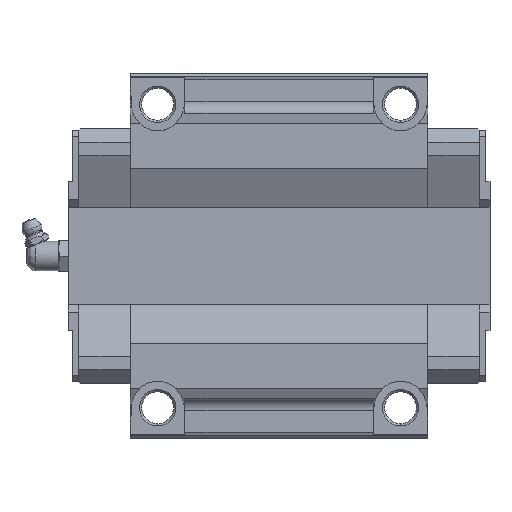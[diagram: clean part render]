
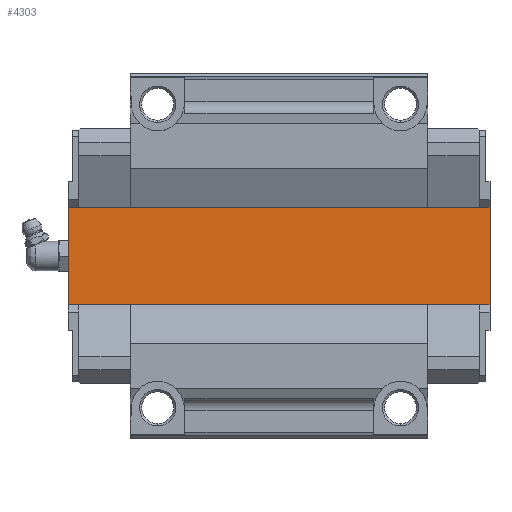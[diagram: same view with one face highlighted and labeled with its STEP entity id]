
A CAD part, front view. The second image highlights one B-rep face of the part: STEP entity #4303.
In plain terms, the highlighted planar face has unit normal (0, -1, 0).
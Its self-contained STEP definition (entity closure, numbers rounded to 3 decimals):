
#100 = DIRECTION ( 'NONE',  ( 0., 0., -1. ) ) ;
#496 = VECTOR ( 'NONE', #557, 1000. ) ;
#537 = EDGE_CURVE ( 'NONE', #1434, #1753, #5873, .T. ) ;
#557 = DIRECTION ( 'NONE',  ( -1., 0., 0. ) ) ;
#660 = EDGE_CURVE ( 'NONE', #3965, #1434, #2174, .T. ) ;
#831 = VECTOR ( 'NONE', #6884, 1000. ) ;
#1090 = VECTOR ( 'NONE', #4840, 1000. ) ;
#1434 = VERTEX_POINT ( 'NONE', #7837 ) ;
#1454 = LINE ( 'NONE', #2159, #1090 ) ;
#1753 = VERTEX_POINT ( 'NONE', #2582 ) ;
#1935 = CARTESIAN_POINT ( 'NONE',  ( -69.5, 38., -17. ) ) ;
#2159 = CARTESIAN_POINT ( 'NONE',  ( -69.5, 38., -17. ) ) ;
#2174 = LINE ( 'NONE', #7464, #831 ) ;
#2582 = CARTESIAN_POINT ( 'NONE',  ( -69.5, 38., 17. ) ) ;
#2784 = CARTESIAN_POINT ( 'NONE',  ( 69.5, 38., -17. ) ) ;
#3279 = CARTESIAN_POINT ( 'NONE',  ( 69.5, 38., -17. ) ) ;
#3325 = ORIENTED_EDGE ( 'NONE', *, *, #660, .T. ) ;
#3440 = DIRECTION ( 'NONE',  ( 0., -1., 0. ) ) ;
#3644 = EDGE_LOOP ( 'NONE', ( #3680, #6773, #3325, #5095 ) ) ;
#3680 = ORIENTED_EDGE ( 'NONE', *, *, #8539, .F. ) ;
#3965 = VERTEX_POINT ( 'NONE', #2784 ) ;
#4052 = FACE_OUTER_BOUND ( 'NONE', #3644, .T. ) ;
#4140 = PLANE ( 'NONE',  #8342 ) ;
#4303 = ADVANCED_FACE ( 'NONE', ( #4052 ), #4140, .T. ) ;
#4808 = CARTESIAN_POINT ( 'NONE',  ( 69.5, 38., -17. ) ) ;
#4840 = DIRECTION ( 'NONE',  ( 0., 0., 1. ) ) ;
#5001 = EDGE_CURVE ( 'NONE', #3965, #8429, #5403, .T. ) ;
#5095 = ORIENTED_EDGE ( 'NONE', *, *, #537, .T. ) ;
#5403 = LINE ( 'NONE', #3279, #496 ) ;
#5873 = LINE ( 'NONE', #6007, #5890 ) ;
#5890 = VECTOR ( 'NONE', #6670, 1000. ) ;
#6007 = CARTESIAN_POINT ( 'NONE',  ( 69.5, 38., 17. ) ) ;
#6670 = DIRECTION ( 'NONE',  ( -1., 0., 0. ) ) ;
#6773 = ORIENTED_EDGE ( 'NONE', *, *, #5001, .F. ) ;
#6884 = DIRECTION ( 'NONE',  ( 0., 0., 1. ) ) ;
#7464 = CARTESIAN_POINT ( 'NONE',  ( 69.5, 38., -17. ) ) ;
#7837 = CARTESIAN_POINT ( 'NONE',  ( 69.5, 38., 17. ) ) ;
#8342 = AXIS2_PLACEMENT_3D ( 'NONE', #4808, #3440, #100 ) ;
#8429 = VERTEX_POINT ( 'NONE', #1935 ) ;
#8539 = EDGE_CURVE ( 'NONE', #8429, #1753, #1454, .T. ) ;
